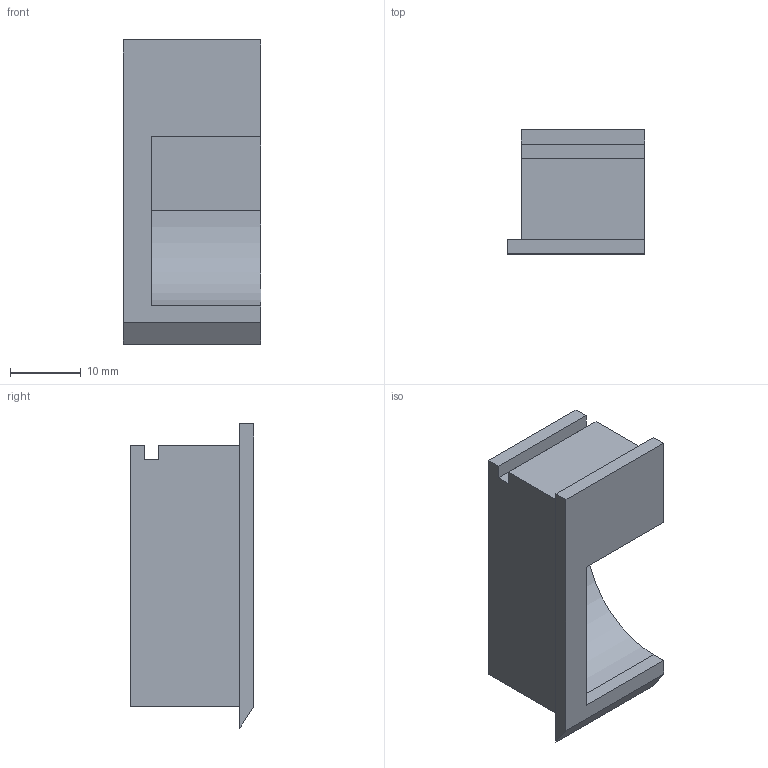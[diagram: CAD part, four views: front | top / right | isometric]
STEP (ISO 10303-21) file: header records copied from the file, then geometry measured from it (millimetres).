
FILE_DESCRIPTION( ( '' ), '1' );
FILE_NAME( 'C:/Documents and Settings/Sachin/Desktop/Sheet 10_1/stp/115298.stp', '2013-10-22T06:02:38', ( '' ), ( '' ), ' ', ' ', ' ' );
FILE_SCHEMA( ( 'CONFIG_CONTROL_DESIGN' ) );
Length unit declared in the file: millimetre
Products named in the file (1): 1
Bounding box: 19.5 x 17.5 x 43 mm (x, y, z)
Volume: 4920 mm3; surface area: 4219.2 mm2
Topology: 1 solids, 1 shells, 23 faces, 63 edges, 42 vertices
Faces by surface type: plane 20, cylinder 3
Entity records: 767 total; most frequent: CARTESIAN_POINT 129, ORIENTED_EDGE 126, DIRECTION 117, EDGE_CURVE 63, LINE 57, VECTOR 57, VERTEX_POINT 42, AXIS2_PLACEMENT_3D 30
